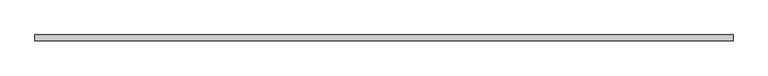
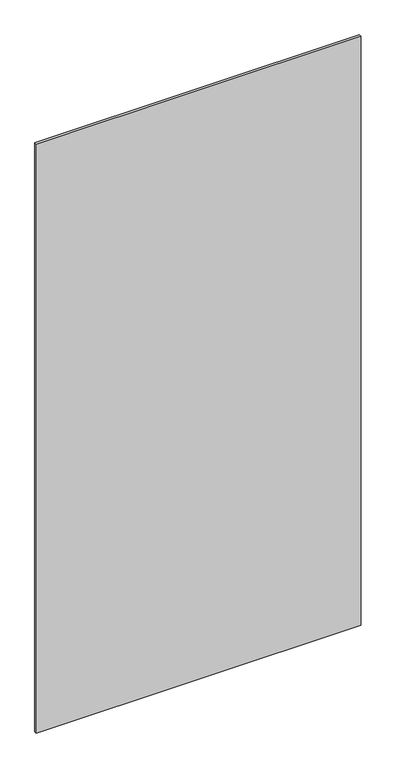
"""IFC4 building model written with IfcOpenShell, lengths in millimetres: plate geometry, システム パネル : 標準."""

from ifc_helpers import new_model, si_unit, origin, origin_with_axes, place, context, project, spatial, polyline, outline, extrude, source, transform, mapped, element, save


def plate_6aa9e5b9(model_context):
    return source(origin(), model_context, "Body", "SweptSolid", [
        extrude(outline(polyline([(613.125, -5.0), (-613.125, -5.0), (-613.125, 5.0), (613.125, 5.0), (613.125, -5.0)])), origin_with_axes(), (0.0, 0.0, 1.0), 2350.0),
    ])


if __name__ == "__main__":
    model = new_model("IFC4")
    model_context = context("Model", 3, world=origin())
    ifc_project = project(units=[si_unit("LENGTHUNIT", "METRE", prefix="MILLI")], contexts=[model_context])
    site = spatial("IfcSite", under=ifc_project)
    building = spatial("IfcBuilding", under=site)
    placement = place(None, origin())
    plate_shape = plate_6aa9e5b9(model_context)
    element("IfcPlate", 1, ObjectType="システム パネル : 標準", at=placement, inside=building, context=model_context, shape_type="MappedRepresentation", body=[
        mapped(plate_shape, transform((0.0, 0.0, 0.0), x_axis=(1.0, 0.0, 0.0), y_axis=(0.0, 1.0, 0.0), z_axis=(0.0, 0.0, 1.0))),
    ])
    save(model, "model.ifc")
